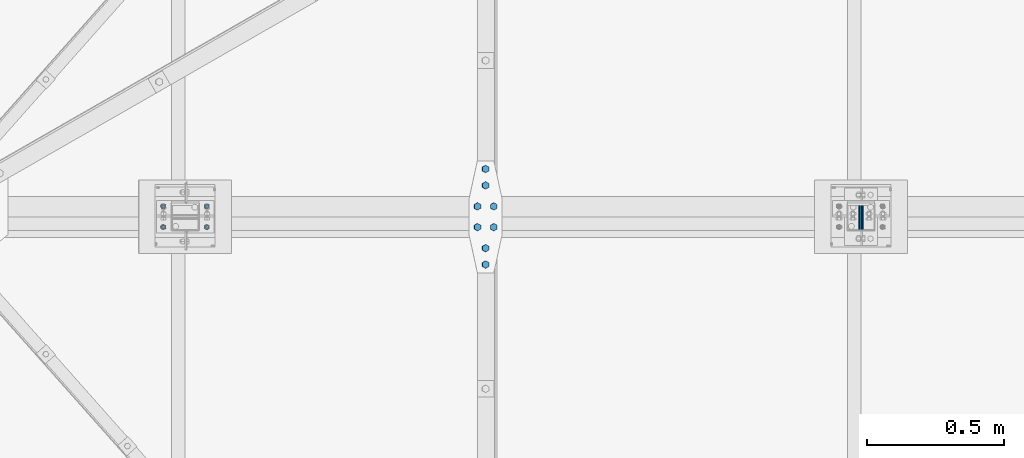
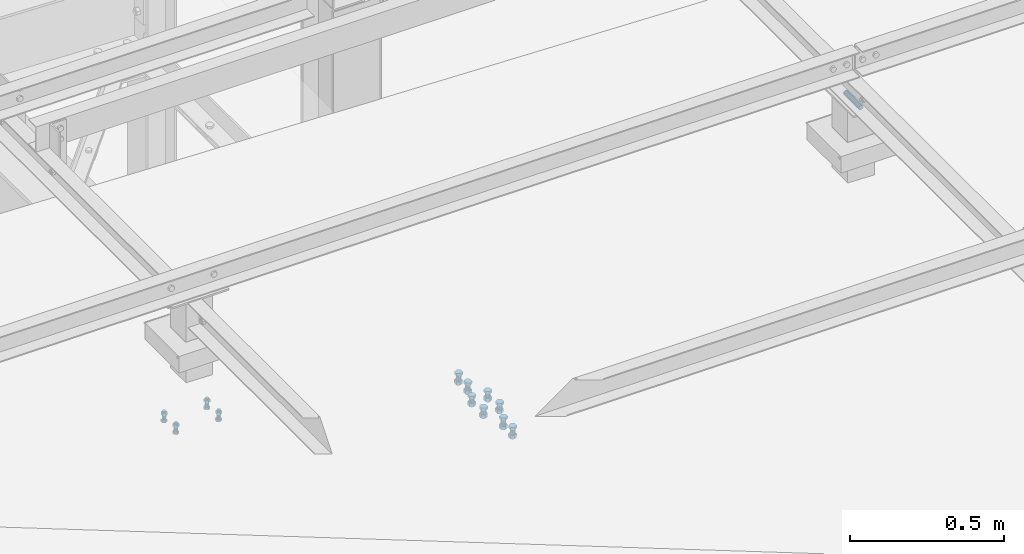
# One storey, part 333 of 3134: 5 mechanical fasteners, 4 elements without a shape of their own.
"""IFC2X3 building model written with IfcOpenShell, lengths in millimetres."""

import ifcopenshell
import ifcopenshell.guid

model = None  # the IFC model being written
_history = None  # IfcOwnerHistory: only IFC2X3 demands one
_inside = {}  # id of a spatial element -> (the spatial element, [elements in it])
_under = {}  # id of a project, library or spatial element -> (it, [spatial elements below it])
_declared = {}  # id of a project -> (the project, [libraries it declares])
_typed = {}  # id of a type object -> (the type object, [elements of that type])
_made_of = {}  # id of a material, layer set ... -> (it, [elements and type objects made of it])


def new_model(schema):
    """Start an empty IFC model of exactly this schema.

    Asked for "IFC4X3", IfcOpenShell would pick the latest addendum, in which some entities
    have other attributes; the version numbers below select the first issue.
    IFC2X3 requires an IfcOwnerHistory on every rooted entity: one is made here for all.
    """
    global model, _history
    if schema == "IFC4X3":
        model = ifcopenshell.file(schema_version=(4, 3, 0, 0))
    else:
        model = ifcopenshell.file(schema=schema)
    _inside.clear()
    _under.clear()
    _declared.clear()
    _typed.clear()
    _made_of.clear()
    _history = None
    if model.schema == "IFC2X3":
        org = make("IfcOrganization", Name="unknown")
        user = make(
            "IfcPersonAndOrganization",
            ThePerson=make("IfcPerson", FamilyName="unknown"),
            TheOrganization=org,
        )
        app = make(
            "IfcApplication",
            ApplicationDeveloper=org,
            Version="unknown",
            ApplicationFullName="unknown",
            ApplicationIdentifier="unknown",
        )
        _history = make(
            "IfcOwnerHistory",
            OwningUser=user,
            OwningApplication=app,
            ChangeAction="ADDED",
            CreationDate=0,
        )
    return model


def make(cls, **values):
    """One entity of the class cls with the attributes given. An attribute that is None is left unset."""
    return model.create_entity(
        cls, **{name: value for name, value in values.items() if value is not None}
    )


def rooted(cls, **values):
    """An entity with a GlobalId (a new one), such as an element, a storey or a relation."""
    return make(cls, GlobalId=ifcopenshell.guid.new(), OwnerHistory=_history, **values)


def si_unit(unit_type, name, prefix=None):
    """IfcSIUnit, for example si_unit("LENGTHUNIT", "METRE", prefix="MILLI")."""
    return make("IfcSIUnit", UnitType=unit_type, Prefix=prefix, Name=name)


def assignment(units):
    """IfcUnitAssignment: the units of a project."""
    return None if units is None else make("IfcUnitAssignment", Units=units)


def point(xyz):
    """IfcCartesianPoint."""
    return None if xyz is None else make("IfcCartesianPoint", Coordinates=xyz)


def direction(xyz):
    """IfcDirection."""
    return None if xyz is None else make("IfcDirection", DirectionRatios=xyz)


def frame(location, z_axis=None, x_axis=None):
    """IfcAxis2Placement3D, a coordinate frame: its origin and axes. An axis left out is left unset."""
    return make(
        "IfcAxis2Placement3D",
        Location=point(location),
        Axis=direction(z_axis),
        RefDirection=direction(x_axis),
    )


def origin_with_axes():
    """The frame at (0, 0, 0) with the z axis (0, 0, 1) and the x axis (1, 0, 0) written out."""
    return frame((0.0, 0.0, 0.0), z_axis=(0.0, 0.0, 1.0), x_axis=(1.0, 0.0, 0.0))


def place(relative_to, where):
    """IfcLocalPlacement: puts the frame where relative to a parent placement (None: the world)."""
    return make(
        "IfcLocalPlacement", PlacementRelTo=relative_to, RelativePlacement=where
    )


def context(
    kind, dimensions, precision=None, world=None, true_north=None, identifier=None
):
    """IfcGeometricRepresentationContext, for example the 3D "Model" context."""
    return make(
        "IfcGeometricRepresentationContext",
        ContextIdentifier=identifier,
        ContextType=kind,
        CoordinateSpaceDimension=dimensions,
        Precision=precision,
        WorldCoordinateSystem=world,
        TrueNorth=true_north,
    )


def subcontext(parent, identifier, kind, view, scale=None):
    """IfcGeometricRepresentationSubContext, for example "Body" below "Model"."""
    return make(
        "IfcGeometricRepresentationSubContext",
        ContextIdentifier=identifier,
        ContextType=kind,
        ParentContext=parent,
        TargetScale=scale,
        TargetView=view,
    )


def project(units=None, contexts=None):
    """IfcProject with its units and contexts."""
    return rooted(
        "IfcProject",
        Name="project",
        RepresentationContexts=contexts,
        UnitsInContext=assignment(units),
    )


def spatial(cls, under=None, at=None, **own):
    """A site, building, storey or space (cls), placed at a placement, below another one or the project."""
    s = rooted(cls, ObjectPlacement=at, **own)
    if under is not None:
        _under.setdefault(under.id(), (under, []))[1].append(s)
    return s


def faces_of(points, faces, orient=None, outer=None):
    """IfcFace entities. A face is a list of loops; a loop is a list of indices into points, from 0.

    orient and outer hold one flag for each loop. By default every Orientation is true, the
    first loop of a face is its IfcFaceOuterBound and the others are IfcFaceBound.
    """
    made = []
    for i, loops in enumerate(faces):
        bounds = []
        for j, loop in enumerate(loops):
            is_outer = j == 0 if outer is None else outer[i][j]
            bounds.append(
                make(
                    "IfcFaceOuterBound" if is_outer else "IfcFaceBound",
                    Bound=make("IfcPolyLoop", Polygon=[points[k] for k in loop]),
                    Orientation=True if orient is None else orient[i][j],
                )
            )
        made.append(make("IfcFace", Bounds=bounds))
    return made


def faceted_brep(points, faces, orient=None, outer=None, voids=None):
    """IfcFacetedBrep: a solid bounded by flat faces; with voids (closed shells), ...WithVoids."""
    shared = [point(p) for p in points]
    hull = make("IfcClosedShell", CfsFaces=faces_of(shared, faces, orient, outer))
    if voids is None:
        return make("IfcFacetedBrep", Outer=hull)
    return make(
        "IfcFacetedBrepWithVoids",
        Outer=hull,
        Voids=[
            make(cls, CfsFaces=faces_of(shared, fs, o, b)) for cls, fs, o, b in voids
        ],
    )


def shape(context_of_items, identifier, shape_type, items):
    """IfcShapeRepresentation: the items that make up one representation, for example the "Body"."""
    return make(
        "IfcShapeRepresentation",
        ContextOfItems=context_of_items,
        RepresentationIdentifier=identifier,
        RepresentationType=shape_type,
        Items=items,
    )


def source(mapping_origin, context_of_items, identifier, shape_type, items):
    """IfcRepresentationMap: a shape defined once, which mapped items show again and again."""
    return make(
        "IfcRepresentationMap",
        MappingOrigin=mapping_origin,
        MappedRepresentation=shape(context_of_items, identifier, shape_type, items),
    )


def transform(
    local_origin,
    x_axis=None,
    y_axis=None,
    z_axis=None,
    scale=None,
    scale2=None,
    scale3=None,
    uniform=True,
):
    """IfcCartesianTransformationOperator3D, or its non-uniform kind. x_axis, y_axis, z_axis: its Axis1, 2, 3."""
    if uniform:
        return make(
            "IfcCartesianTransformationOperator3D",
            Axis1=direction(x_axis),
            Axis2=direction(y_axis),
            LocalOrigin=point(local_origin),
            Scale=scale,
            Axis3=direction(z_axis),
        )
    return make(
        "IfcCartesianTransformationOperator3DnonUniform",
        Axis1=direction(x_axis),
        Axis2=direction(y_axis),
        LocalOrigin=point(local_origin),
        Scale=scale,
        Axis3=direction(z_axis),
        Scale2=scale2,
        Scale3=scale3,
    )


def mapped(mapping_source, mapping_target):
    """IfcMappedItem: shows the shape of a source again, moved by a transform."""
    return make(
        "IfcMappedItem", MappingSource=mapping_source, MappingTarget=mapping_target
    )


def material(Name=None, Category=None):
    """IfcMaterial."""
    return make("IfcMaterial", Name=Name, Category=Category)


def made_of(thing, what):
    """Note that an element or type object is made of a material, layer set ...; save() writes the relation."""
    if what is not None:
        _made_of.setdefault(what.id(), (what, []))[1].append(thing)
    return thing


def type_object(cls, material=None, **own):
    """A type object (cls), such as IfcWallType, which elements share."""
    return made_of(rooted(cls, **own), material)


def element(
    cls,
    number,
    at=None,
    inside=None,
    cuts=None,
    type_object=None,
    material=None,
    context=None,
    identifier="Body",
    shape_type=None,
    held_by="IfcProductDefinitionShape",
    body=None,
    shapes=None,
    **own,
):
    """One element of the class cls, such as IfcWall. Its Tag is "e" and its number.

    at: its placement. inside: the storey or other place that contains it. cuts: it is an
    opening in that element (IfcRelVoidsElement). A single representation is given by context,
    identifier, shape_type and body (its items); several are given by shapes. held_by: the class
    of the entity that holds the representations. save() writes the other relations.
    """
    e = rooted(cls, Tag="e%d" % number, ObjectPlacement=at, **own)
    if body is not None:
        shapes = [shape(context, identifier, shape_type, body)]
    if shapes is not None:
        e.Representation = make(held_by, Representations=shapes)
    if inside is not None:
        _inside.setdefault(inside.id(), (inside, []))[1].append(e)
    if cuts is not None:
        rooted(
            "IfcRelVoidsElement", RelatingBuildingElement=cuts, RelatedOpeningElement=e
        )
    if type_object is not None:
        _typed.setdefault(type_object.id(), (type_object, []))[1].append(e)
    return made_of(e, material)


def aggregate(whole, parts):
    """IfcRelAggregates: a whole, such as a stair, and the parts it consists of."""
    return rooted("IfcRelAggregates", RelatingObject=whole, RelatedObjects=parts)


def save(model, path):
    """Write the relations noted so far, then the file.

    IfcRelAggregates (storeys below a building ...), IfcRelContainedInSpatialStructure (elements
    in a storey), IfcRelDefinesByType, IfcRelAssociatesMaterial and IfcRelDeclares: one each for
    every whole, place, type object, material and project.
    """
    for whole, parts in _under.values():
        aggregate(whole, parts)
    for where, things in _inside.values():
        rooted(
            "IfcRelContainedInSpatialStructure",
            RelatedElements=things,
            RelatingStructure=where,
        )
    for kind, things in _typed.values():
        rooted("IfcRelDefinesByType", RelatedObjects=things, RelatingType=kind)
    for what, things in _made_of.values():
        rooted("IfcRelAssociatesMaterial", RelatedObjects=things, RelatingMaterial=what)
    for by, libraries in _declared.values():
        rooted("IfcRelDeclares", RelatingContext=by, RelatedDefinitions=libraries)
    model.write(path)


model = new_model("IFC2X3")

# Units and contexts
model_context = context("Model", 3, precision=1e-05, world=origin_with_axes())
body_context = subcontext(model_context, "Body", "Model", "MODEL_VIEW")
ifc_project = project(units=[si_unit("LENGTHUNIT", "METRE", prefix="MILLI"), si_unit("AREAUNIT", "SQUARE_METRE"), si_unit("VOLUMEUNIT", "CUBIC_METRE"), si_unit("MASSUNIT", "GRAM", prefix="KILO"), si_unit("TIMEUNIT", "SECOND"), si_unit("PLANEANGLEUNIT", "RADIAN"), si_unit("SOLIDANGLEUNIT", "STERADIAN"), si_unit("THERMODYNAMICTEMPERATUREUNIT", "DEGREE_CELSIUS"), si_unit("LUMINOUSINTENSITYUNIT", "LUMEN")], contexts=[model_context])

# Site, building, storey
site_placement = place(None, origin_with_axes())
site = spatial("IfcSite", under=ifc_project, at=site_placement, CompositionType="ELEMENT")
building_placement = place(site_placement, origin_with_axes())
building = spatial("IfcBuilding", under=site, at=building_placement, Name="Undefined", CompositionType="ELEMENT")
storey_placement = place(building_placement, origin_with_axes())
storey = spatial("IfcBuildingStorey", under=building, at=storey_placement, Name="Undefined", CompositionType="ELEMENT", Elevation=0.0)

# Assembly, mechanical fastener
assembly_1_placement = place(storey_placement, origin_with_axes())
assembly_1 = element("IfcElementAssembly", 1, at=assembly_1_placement, inside=storey, Name="300", AssemblyPlace="NOTDEFINED", PredefinedType="RIGID_FRAME")
ifc_material = material(Name="8.8")
mechanical_fastener_type = type_object("IfcMechanicalFastenerType", Name="Bolt assembly")
shared_shape_1 = source(origin_with_axes(), body_context, "Body", "Brep", [
    faceted_brep([(13.856406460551, -23.1999997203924, 0.0), (6.92820323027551, -23.1999997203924, 12.0), (-6.92820323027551, -23.1999997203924, 12.0), (-13.856406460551, -23.1999997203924, 1.69692038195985e-15), (-6.92820323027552, -23.1999997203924, -12.0), (6.9282032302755, -23.1999997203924, -12.0), (6.9282032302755, -13.1999997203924, -12.0), (-6.92820323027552, -13.1999997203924, -12.0), (-13.856406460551, -13.1999997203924, 1.69692038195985e-15), (-6.92820323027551, -13.1999997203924, 12.0), (6.92820323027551, -13.1999997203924, 12.0), (13.856406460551, -13.1999997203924, 0.0), (8.0, -13.1999997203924, 0.0), (6.92820323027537, -13.1999997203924, 4.00000000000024), (3.99999999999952, -13.1999997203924, 6.92820323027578), (-8.29068785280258e-13, -13.1999997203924, 8.0), (-4.00000000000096, -13.1999997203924, 6.92820323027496), (-6.9282032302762, -13.1999997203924, 3.99999999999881), (-8.0, -13.1999997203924, -1.65813757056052e-12), (-6.92820323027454, -13.1999997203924, -4.00000000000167), (-3.99999999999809, -13.1999997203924, -6.92820323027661), (2.47832457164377e-12, -13.1999997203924, -8.0), (4.00000000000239, -13.1999997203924, -6.92820323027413), (6.92820323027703, -13.1999997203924, -3.99999999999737), (6.92820323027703, 21.8000002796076, -3.99999999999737), (4.00000000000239, 21.8000002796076, -6.92820323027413), (2.47832457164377e-12, 21.8000002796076, -8.0), (-3.99999999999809, 21.8000002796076, -6.92820323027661), (-6.92820323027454, 21.8000002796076, -4.00000000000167), (-8.0, 21.8000002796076, -1.65813757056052e-12), (-6.9282032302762, 21.8000002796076, 3.99999999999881), (-4.00000000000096, 21.8000002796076, 6.92820323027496), (-8.29068785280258e-13, 21.8000002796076, 8.0), (3.99999999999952, 21.8000002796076, 6.92820323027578), (6.92820323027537, 21.8000002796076, 4.00000000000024), (8.0, 21.8000002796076, 0.0), (13.856406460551, 3.99999999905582, 0.0), (6.92820323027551, 3.99999999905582, 12.0), (-6.92820323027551, 3.99999999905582, 12.0), (-13.856406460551, 3.99999999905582, 1.69692038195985e-15), (-6.92820323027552, 3.99999999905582, -12.0), (6.9282032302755, 3.99999999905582, -12.0), (6.9282032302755, 16.9999999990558, -12.0), (-6.92820323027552, 16.9999999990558, -12.0), (-13.856406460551, 16.9999999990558, 1.69692038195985e-15), (-6.92820323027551, 16.9999999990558, 12.0), (6.92820323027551, 16.9999999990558, 12.0), (13.856406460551, 16.9999999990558, 0.0)], [[[0, 1, 2, 3, 4, 5]], [[6, 7, 8, 9, 10, 11]], [[0, 11, 10, 1]], [[1, 10, 9, 2]], [[2, 9, 8, 3]], [[3, 8, 7, 4]], [[4, 7, 6, 5]], [[5, 6, 11, 0]], [[12, 13, 14, 15, 16, 17, 18, 19, 20, 21, 22, 23]], [[24, 25, 26, 27, 28, 29, 30, 31, 32, 33, 34, 35]], [[12, 35, 34, 13]], [[13, 34, 33, 14]], [[14, 33, 32, 15]], [[15, 32, 31, 16]], [[16, 31, 30, 17]], [[17, 30, 29, 18]], [[18, 29, 28, 19]], [[19, 28, 27, 20]], [[20, 27, 26, 21]], [[21, 26, 25, 22]], [[22, 25, 24, 23]], [[23, 24, 35, 12]], [[36, 37, 38, 39, 40, 41]], [[42, 43, 44, 45, 46, 47]], [[36, 47, 46, 37]], [[37, 46, 45, 38]], [[38, 45, 44, 39]], [[39, 44, 43, 40]], [[40, 43, 42, 41]], [[41, 42, 47, 36]]]),
    faceted_brep([(9.0, -4.10000000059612, 0.0), (7.79422863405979, -4.10000000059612, 4.50000000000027), (4.49999999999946, -4.10000000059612, 7.79422863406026), (-9.3270238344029e-13, -4.10000000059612, 9.0), (-4.50000000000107, -4.10000000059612, 7.79422863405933), (-7.79422863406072, -4.10000000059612, 4.49999999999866), (-9.0, -4.10000000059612, -1.86540476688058e-12), (-7.79422863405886, -4.10000000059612, -4.50000000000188), (-4.49999999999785, -4.10000000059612, -7.79422863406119), (2.78811514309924e-12, -4.10000000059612, -9.0), (4.50000000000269, -4.10000000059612, -7.7942286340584), (7.79422863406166, -4.10000000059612, -4.49999999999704), (7.79422863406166, 4.00000375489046, -4.49999999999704), (4.50000000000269, 4.00000375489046, -7.7942286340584), (2.78811514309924e-12, 4.00000375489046, -9.0), (-4.49999999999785, 4.00000375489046, -7.79422863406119), (-7.79422863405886, 4.00000375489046, -4.50000000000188), (-9.0, 4.00000375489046, -1.86540476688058e-12), (-7.79422863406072, 4.00000375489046, 4.49999999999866), (-4.50000000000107, 4.00000375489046, 7.79422863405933), (-9.3270238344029e-13, 4.00000375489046, 9.0), (4.49999999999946, 4.00000375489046, 7.79422863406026), (7.79422863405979, 4.00000375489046, 4.50000000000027), (9.0, 4.00000375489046, 0.0), (9.0, -13.0999997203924, 0.0), (7.79422863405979, -13.0999997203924, 4.50000000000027), (4.49999999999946, -13.0999997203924, 7.79422863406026), (-9.3270238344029e-13, -13.0999997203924, 9.0), (-4.50000000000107, -13.0999997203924, 7.79422863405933), (-7.79422863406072, -13.0999997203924, 4.49999999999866), (-9.0, -13.0999997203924, -1.86540476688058e-12), (-7.79422863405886, -13.0999997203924, -4.50000000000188), (-4.49999999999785, -13.0999997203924, -7.79422863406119), (2.78811514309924e-12, -13.0999997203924, -9.0), (4.50000000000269, -13.0999997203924, -7.7942286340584), (7.79422863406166, -13.0999997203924, -4.49999999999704), (7.79422863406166, -3.9, -4.49999999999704), (4.50000000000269, -3.9, -7.7942286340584), (2.78811514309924e-12, -3.9, -9.0), (-4.49999999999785, -3.9, -7.79422863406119), (-7.79422863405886, -3.9, -4.50000000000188), (-9.0, -3.9, -1.86540476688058e-12), (-7.79422863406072, -3.9, 4.49999999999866), (-4.50000000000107, -3.9, 7.79422863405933), (-9.3270238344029e-13, -3.9, 9.0), (4.49999999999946, -3.9, 7.79422863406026), (7.79422863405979, -3.9, 4.50000000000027), (9.0, -3.9, 0.0)], [[[0, 1, 2, 3, 4, 5, 6, 7, 8, 9, 10, 11]], [[12, 13, 14, 15, 16, 17, 18, 19, 20, 21, 22, 23]], [[0, 23, 22, 1]], [[1, 22, 21, 2]], [[2, 21, 20, 3]], [[3, 20, 19, 4]], [[4, 19, 18, 5]], [[5, 18, 17, 6]], [[6, 17, 16, 7]], [[7, 16, 15, 8]], [[8, 15, 14, 9]], [[9, 14, 13, 10]], [[10, 13, 12, 11]], [[11, 12, 23, 0]], [[24, 25, 26, 27, 28, 29, 30, 31, 32, 33, 34, 35]], [[36, 37, 38, 39, 40, 41, 42, 43, 44, 45, 46, 47]], [[24, 47, 46, 25]], [[25, 46, 45, 26]], [[26, 45, 44, 27]], [[27, 44, 43, 28]], [[28, 43, 42, 29]], [[29, 42, 41, 30]], [[30, 41, 40, 31]], [[31, 40, 39, 32]], [[32, 39, 38, 33]], [[33, 38, 37, 34]], [[34, 37, 36, 35]], [[35, 36, 47, 24]]]),
])
mechanical_fastener_1_placement = place(assembly_1_placement, frame((71700.0552172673, 12331.9999999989, 5010.20374992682), z_axis=(-0.999519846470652, 0.0, 0.0309851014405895), x_axis=(0.0, 1.0, 0.0)))
mechanical_fastener_1 = element("IfcMechanicalFastener", 2, at=mechanical_fastener_1_placement, type_object=mechanical_fastener_type, material=ifc_material, Name="Bolt assembly", NominalDiameter=16.0, NominalLength=35.0, context=body_context, shape_type="MappedRepresentation", body=[
    mapped(shared_shape_1, transform((0.0, 4.54747350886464e-13, -30.0000000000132))),
    mapped(shared_shape_1, transform((76.0, -2.00088834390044e-10, -29.9999999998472))),
    mapped(shared_shape_1, transform((0.0, 4.54747350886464e-13, 30.0000000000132))),
    mapped(shared_shape_1, transform((76.0, 1.98269844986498e-10, 29.9999999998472))),
])

assembly_2_placement = place(storey_placement, origin_with_axes())
assembly_2 = element("IfcElementAssembly", 3, at=assembly_2_placement, inside=storey, AssemblyPlace="NOTDEFINED", PredefinedType="RIGID_FRAME")
shared_shape_2 = source(origin_with_axes(), body_context, "Body", "Brep", [
    faceted_brep([(9.0, -50.0, 0.0), (7.79422863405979, -50.0, 4.50000000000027), (4.49999999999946, -50.0, 7.79422863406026), (-9.3270238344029e-13, -50.0, 9.0), (-4.50000000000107, -50.0, 7.79422863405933), (-7.79422863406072, -50.0, 4.49999999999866), (-9.0, -50.0, -1.86540476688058e-12), (-7.79422863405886, -50.0, -4.50000000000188), (-4.49999999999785, -50.0, -7.79422863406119), (2.78811514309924e-12, -50.0, -9.0), (4.50000000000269, -50.0, -7.7942286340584), (7.79422863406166, -50.0, -4.49999999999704), (7.79422863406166, 50.1, -4.49999999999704), (4.50000000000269, 50.1, -7.7942286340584), (2.78811514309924e-12, 50.1, -9.0), (-4.49999999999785, 50.1, -7.79422863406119), (-7.79422863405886, 50.1, -4.50000000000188), (-9.0, 50.1, -1.86540476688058e-12), (-7.79422863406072, 50.1, 4.49999999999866), (-4.50000000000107, 50.1, 7.79422863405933), (-9.3270238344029e-13, 50.1, 9.0), (4.49999999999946, 50.1, 7.79422863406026), (7.79422863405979, 50.1, 4.50000000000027), (9.0, 50.1, 0.0)], [[[0, 1, 2, 3, 4, 5, 6, 7, 8, 9, 10, 11]], [[12, 13, 14, 15, 16, 17, 18, 19, 20, 21, 22, 23]], [[0, 23, 22, 1]], [[1, 22, 21, 2]], [[2, 21, 20, 3]], [[3, 20, 19, 4]], [[4, 19, 18, 5]], [[5, 18, 17, 6]], [[6, 17, 16, 7]], [[7, 16, 15, 8]], [[8, 15, 14, 9]], [[9, 14, 13, 10]], [[10, 13, 12, 11]], [[11, 12, 23, 0]]]),
])
mechanical_fastener_2_placement = place(assembly_2_placement, frame((73075.0, 12370.0, 5730.0), z_axis=(-1.0, 0.0, 0.0), x_axis=(0.0, 0.0, 1.0)))
mechanical_fastener_2 = element("IfcMechanicalFastener", 4, at=mechanical_fastener_2_placement, type_object=mechanical_fastener_type, material=ifc_material, Name="Bolt assembly", NominalDiameter=16.0, NominalLength=100.0, context=body_context, shape_type="MappedRepresentation", body=[
    mapped(shared_shape_2, transform((0.0, 0.0, 0.0))),
])
aggregate(assembly_2, [mechanical_fastener_2])

# Mechanical fastener
shared_shape_3 = source(origin_with_axes(), body_context, "Body", "Brep", [
    faceted_brep([(10.9696551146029, -10.1955642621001, 0.0), (5.48482755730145, -10.1955642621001, 9.5), (-5.48482755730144, -10.1955642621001, 9.5), (-10.9696551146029, -10.1955642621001, 1.34339530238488e-15), (-5.48482755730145, -10.1955642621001, -9.5), (5.48482755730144, -10.1955642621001, -9.50000000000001), (5.48482755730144, -2.19556426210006, -9.50000000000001), (-5.48482755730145, -2.19556426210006, -9.5), (-10.9696551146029, -2.19556426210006, 1.34339530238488e-15), (-5.48482755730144, -2.19556426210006, 9.5), (5.48482755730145, -2.19556426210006, 9.5), (10.9696551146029, -2.19556426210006, 0.0), (6.0, -2.19556426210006, 0.0), (5.19615242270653, -2.19556426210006, 3.00000000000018), (2.99999999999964, -2.19556426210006, 5.19615242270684), (-6.21801588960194e-13, -2.19556426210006, 6.0), (-3.00000000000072, -2.19556426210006, 5.19615242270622), (-5.19615242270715, -2.19556426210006, 2.9999999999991), (-6.0, -2.19556426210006, -1.24360317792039e-12), (-5.19615242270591, -2.19556426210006, -3.00000000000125), (-2.99999999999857, -2.19556426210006, -5.19615242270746), (1.85874342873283e-12, -2.19556426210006, -6.0), (3.00000000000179, -2.19556426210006, -5.1961524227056), (5.19615242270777, -2.19556426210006, -2.99999999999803), (5.19615242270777, 32.8044357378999, -2.99999999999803), (3.00000000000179, 32.8044357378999, -5.1961524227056), (1.85874342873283e-12, 32.8044357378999, -6.0), (-2.99999999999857, 32.8044357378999, -5.19615242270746), (-5.19615242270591, 32.8044357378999, -3.00000000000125), (-6.0, 32.8044357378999, -1.24360317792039e-12), (-5.19615242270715, 32.8044357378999, 2.9999999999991), (-3.00000000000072, 32.8044357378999, 5.19615242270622), (-6.21801588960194e-13, 32.8044357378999, 6.0), (2.99999999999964, 32.8044357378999, 5.19615242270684), (5.19615242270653, 32.8044357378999, 3.00000000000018), (6.0, 32.8044357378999, 0.0), (10.9696551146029, 17.0008987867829, 0.0), (5.48482755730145, 17.0008987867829, 9.5), (-5.48482755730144, 17.0008987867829, 9.5), (-10.9696551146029, 17.0008987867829, 1.34339530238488e-15), (-5.48482755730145, 17.0008987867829, -9.5), (5.48482755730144, 17.0008987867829, -9.50000000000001), (5.48482755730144, 27.0008987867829, -9.50000000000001), (-5.48482755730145, 27.0008987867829, -9.5), (-10.9696551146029, 27.0008987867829, 1.34339530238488e-15), (-5.48482755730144, 27.0008987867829, 9.5), (5.48482755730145, 27.0008987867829, 9.5), (10.9696551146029, 27.0008987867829, 0.0)], [[[0, 1, 2, 3, 4, 5]], [[6, 7, 8, 9, 10, 11]], [[0, 11, 10, 1]], [[1, 10, 9, 2]], [[2, 9, 8, 3]], [[3, 8, 7, 4]], [[4, 7, 6, 5]], [[5, 6, 11, 0]], [[12, 13, 14, 15, 16, 17, 18, 19, 20, 21, 22, 23]], [[24, 25, 26, 27, 28, 29, 30, 31, 32, 33, 34, 35]], [[12, 35, 34, 13]], [[13, 34, 33, 14]], [[14, 33, 32, 15]], [[15, 32, 31, 16]], [[16, 31, 30, 17]], [[17, 30, 29, 18]], [[18, 29, 28, 19]], [[19, 28, 27, 20]], [[20, 27, 26, 21]], [[21, 26, 25, 22]], [[22, 25, 24, 23]], [[23, 24, 35, 12]], [[36, 37, 38, 39, 40, 41]], [[42, 43, 44, 45, 46, 47]], [[36, 47, 46, 37]], [[37, 46, 45, 38]], [[38, 45, 44, 39]], [[39, 44, 43, 40]], [[40, 43, 42, 41]], [[41, 42, 47, 36]]]),
    faceted_brep([(7.0, 8.90089878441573, 0.0), (6.06217782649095, 8.90089878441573, 3.50000000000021), (3.49999999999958, 8.90089878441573, 6.06217782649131), (-7.25435187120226e-13, 8.90089878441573, 7.0), (-3.50000000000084, 8.90089878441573, 6.06217782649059), (-6.06217782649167, 8.90089878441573, 3.49999999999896), (-7.0, 8.90089878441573, -1.45087037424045e-12), (-6.06217782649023, 8.90089878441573, -3.50000000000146), (-3.49999999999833, 8.90089878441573, -6.06217782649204), (2.1685340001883e-12, 8.90089878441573, -7.0), (3.50000000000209, 8.90089878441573, -6.06217782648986), (6.0621778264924, 8.90089878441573, -3.4999999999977), (6.0621778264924, 17.0008987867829, -3.4999999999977), (3.50000000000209, 17.0008987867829, -6.06217782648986), (2.1685340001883e-12, 17.0008987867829, -7.0), (-3.49999999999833, 17.0008987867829, -6.06217782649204), (-6.06217782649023, 17.0008987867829, -3.50000000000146), (-7.0, 17.0008987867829, -1.45087037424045e-12), (-6.06217782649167, 17.0008987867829, 3.49999999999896), (-3.50000000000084, 17.0008987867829, 6.06217782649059), (-7.25435187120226e-13, 17.0008987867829, 7.0), (3.49999999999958, 17.0008987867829, 6.06217782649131), (6.06217782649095, 17.0008987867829, 3.50000000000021), (7.0, 17.0008987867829, 0.0), (7.0, -2.09556426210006, 0.0), (6.06217782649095, -2.09556426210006, 3.50000000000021), (3.49999999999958, -2.09556426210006, 6.06217782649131), (-7.25435187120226e-13, -2.09556426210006, 7.0), (-3.50000000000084, -2.09556426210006, 6.06217782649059), (-6.06217782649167, -2.09556426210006, 3.49999999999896), (-7.0, -2.09556426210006, -1.45087037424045e-12), (-6.06217782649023, -2.09556426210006, -3.50000000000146), (-3.49999999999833, -2.09556426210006, -6.06217782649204), (2.1685340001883e-12, -2.09556426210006, -7.0), (3.50000000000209, -2.09556426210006, -6.06217782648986), (6.0621778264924, -2.09556426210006, -3.4999999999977), (6.0621778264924, 7.10443554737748, -3.4999999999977), (3.50000000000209, 7.10443554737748, -6.06217782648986), (2.1685340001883e-12, 7.10443554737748, -7.0), (-3.49999999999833, 7.10443554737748, -6.06217782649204), (-6.06217782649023, 7.10443554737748, -3.50000000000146), (-7.0, 7.10443554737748, -1.45087037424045e-12), (-6.06217782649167, 7.10443554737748, 3.49999999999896), (-3.50000000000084, 7.10443554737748, 6.06217782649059), (-7.25435187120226e-13, 7.10443554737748, 7.0), (3.49999999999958, 7.10443554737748, 6.06217782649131), (6.06217782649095, 7.10443554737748, 3.50000000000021), (7.0, 7.10443554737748, 0.0)], [[[0, 1, 2, 3, 4, 5, 6, 7, 8, 9, 10, 11]], [[12, 13, 14, 15, 16, 17, 18, 19, 20, 21, 22, 23]], [[0, 23, 22, 1]], [[1, 22, 21, 2]], [[2, 21, 20, 3]], [[3, 20, 19, 4]], [[4, 19, 18, 5]], [[5, 18, 17, 6]], [[6, 17, 16, 7]], [[7, 16, 15, 8]], [[8, 15, 14, 9]], [[9, 14, 13, 10]], [[10, 13, 12, 11]], [[11, 12, 23, 0]], [[24, 25, 26, 27, 28, 29, 30, 31, 32, 33, 34, 35]], [[36, 37, 38, 39, 40, 41, 42, 43, 44, 45, 46, 47]], [[24, 47, 46, 25]], [[25, 46, 45, 26]], [[26, 45, 44, 27]], [[27, 44, 43, 28]], [[28, 43, 42, 29]], [[29, 42, 41, 30]], [[30, 41, 40, 31]], [[31, 40, 39, 32]], [[32, 39, 38, 33]], [[33, 38, 37, 34]], [[34, 37, 36, 35]], [[35, 36, 47, 24]]]),
])
mechanical_fastener_3_placement = place(assembly_1_placement, frame((70599.5351187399, 12408.0, 5338.4572055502), z_axis=(-0.99951962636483, 0.0, 0.0309922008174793), x_axis=(0.0, -1.0, 0.0)))
mechanical_fastener_3 = element("IfcMechanicalFastener", 5, at=mechanical_fastener_3_placement, type_object=mechanical_fastener_type, material=ifc_material, Name="Bolt assembly", NominalDiameter=12.0, NominalLength=35.0, context=body_context, shape_type="MappedRepresentation", body=[
    mapped(shared_shape_3, transform((0.0, -5.32963895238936e-10, -79.9999999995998))),
    mapped(shared_shape_3, transform((76.0, -5.32963895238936e-10, -79.9999999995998))),
    mapped(shared_shape_3, transform((0.0, 5.3114490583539e-10, 79.9999999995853))),
    mapped(shared_shape_3, transform((76.0, 5.3114490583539e-10, 79.9999999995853))),
])

aggregate(assembly_1, [mechanical_fastener_3, mechanical_fastener_1])

# Assembly, mechanical fastener
assembly_3_placement = place(storey_placement, origin_with_axes())
assembly_3 = element("IfcElementAssembly", 6, at=assembly_3_placement, inside=storey, AssemblyPlace="NOTDEFINED", PredefinedType="RIGID_FRAME")
shared_shape_4 = source(origin_with_axes(), body_context, "Body", "Brep", [
    faceted_brep([(13.856406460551, -21.0000017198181, 0.0), (6.92820323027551, -21.0000017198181, 12.0), (-6.92820323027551, -21.0000017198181, 12.0), (-13.856406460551, -21.0000017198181, 1.69692038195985e-15), (-6.92820323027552, -21.0000017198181, -12.0), (6.9282032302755, -21.0000017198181, -12.0), (6.9282032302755, -11.0000017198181, -12.0), (-6.92820323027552, -11.0000017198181, -12.0), (-13.856406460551, -11.0000017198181, 1.69692038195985e-15), (-6.92820323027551, -11.0000017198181, 12.0), (6.92820323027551, -11.0000017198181, 12.0), (13.856406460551, -11.0000017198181, 0.0), (8.0, -11.0000017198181, 0.0), (6.92820323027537, -11.0000017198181, 4.00000000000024), (3.99999999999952, -11.0000017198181, 6.92820323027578), (-8.29068785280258e-13, -11.0000017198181, 8.0), (-4.00000000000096, -11.0000017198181, 6.92820323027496), (-6.9282032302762, -11.0000017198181, 3.99999999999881), (-8.0, -11.0000017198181, -1.65813757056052e-12), (-6.92820323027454, -11.0000017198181, -4.00000000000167), (-3.99999999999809, -11.0000017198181, -6.92820323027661), (2.47832457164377e-12, -11.0000017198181, -8.0), (4.00000000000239, -11.0000017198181, -6.92820323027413), (6.92820323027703, -11.0000017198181, -3.99999999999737), (6.92820323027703, 29.0, -3.99999999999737), (4.00000000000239, 29.0, -6.92820323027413), (2.47832457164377e-12, 29.0, -8.0), (-3.99999999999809, 29.0, -6.92820323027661), (-6.92820323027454, 29.0, -4.00000000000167), (-8.0, 29.0, -1.65813757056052e-12), (-6.9282032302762, 29.0, 3.99999999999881), (-4.00000000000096, 29.0, 6.92820323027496), (-8.29068785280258e-13, 29.0, 8.0), (3.99999999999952, 29.0, 6.92820323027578), (6.92820323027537, 29.0, 4.00000000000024), (8.0, 29.0, 0.0), (13.856406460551, 10.9979999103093, 0.0), (6.92820323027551, 10.9979999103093, 12.0), (-6.92820323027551, 10.9979999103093, 12.0), (-13.856406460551, 10.9979999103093, 1.69692038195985e-15), (-6.92820323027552, 10.9979999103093, -12.0), (6.9282032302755, 10.9979999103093, -12.0), (6.9282032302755, 23.9979999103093, -12.0), (-6.92820323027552, 23.9979999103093, -12.0), (-13.856406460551, 23.9979999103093, 1.69692038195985e-15), (-6.92820323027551, 23.9979999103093, 12.0), (6.92820323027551, 23.9979999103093, 12.0), (13.856406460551, 23.9979999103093, 0.0)], [[[0, 1, 2, 3, 4, 5]], [[6, 7, 8, 9, 10, 11]], [[0, 11, 10, 1]], [[1, 10, 9, 2]], [[2, 9, 8, 3]], [[3, 8, 7, 4]], [[4, 7, 6, 5]], [[5, 6, 11, 0]], [[12, 13, 14, 15, 16, 17, 18, 19, 20, 21, 22, 23]], [[24, 25, 26, 27, 28, 29, 30, 31, 32, 33, 34, 35]], [[12, 35, 34, 13]], [[13, 34, 33, 14]], [[14, 33, 32, 15]], [[15, 32, 31, 16]], [[16, 31, 30, 17]], [[17, 30, 29, 18]], [[18, 29, 28, 19]], [[19, 28, 27, 20]], [[20, 27, 26, 21]], [[21, 26, 25, 22]], [[22, 25, 24, 23]], [[23, 24, 35, 12]], [[36, 37, 38, 39, 40, 41]], [[42, 43, 44, 45, 46, 47]], [[36, 47, 46, 37]], [[37, 46, 45, 38]], [[38, 45, 44, 39]], [[39, 44, 43, 40]], [[40, 43, 42, 41]], [[41, 42, 47, 36]]]),
    faceted_brep([(9.0, -10.9000017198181, 0.0), (7.79422863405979, -10.9000017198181, 4.50000000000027), (4.49999999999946, -10.9000017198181, 7.79422863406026), (-9.3270238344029e-13, -10.9000017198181, 9.0), (-4.50000000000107, -10.9000017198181, 7.79422863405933), (-7.79422863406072, -10.9000017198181, 4.49999999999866), (-9.0, -10.9000017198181, -1.86540476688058e-12), (-7.79422863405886, -10.9000017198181, -4.50000000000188), (-4.49999999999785, -10.9000017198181, -7.79422863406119), (2.78811514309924e-12, -10.9000017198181, -9.0), (4.50000000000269, -10.9000017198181, -7.7942286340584), (7.79422863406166, -10.9000017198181, -4.49999999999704), (7.79422863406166, -3.9, -4.49999999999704), (4.50000000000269, -3.9, -7.7942286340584), (2.78811514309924e-12, -3.9, -9.0), (-4.49999999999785, -3.9, -7.79422863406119), (-7.79422863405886, -3.9, -4.50000000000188), (-9.0, -3.9, -1.86540476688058e-12), (-7.79422863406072, -3.9, 4.49999999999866), (-4.50000000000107, -3.9, 7.79422863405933), (-9.3270238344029e-13, -3.9, 9.0), (4.49999999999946, -3.9, 7.79422863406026), (7.79422863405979, -3.9, 4.50000000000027), (9.0, -3.9, 0.0), (9.0, 3.89799991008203, 0.0), (7.79422863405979, 3.89799991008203, 4.50000000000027), (4.49999999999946, 3.89799991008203, 7.79422863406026), (-9.3270238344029e-13, 3.89799991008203, 9.0), (-4.50000000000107, 3.89799991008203, 7.79422863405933), (-7.79422863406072, 3.89799991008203, 4.49999999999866), (-9.0, 3.89799991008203, -1.86540476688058e-12), (-7.79422863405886, 3.89799991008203, -4.50000000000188), (-4.49999999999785, 3.89799991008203, -7.79422863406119), (2.78811514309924e-12, 3.89799991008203, -9.0), (4.50000000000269, 3.89799991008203, -7.7942286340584), (7.79422863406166, 3.89799991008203, -4.49999999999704), (7.79422863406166, 10.9979999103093, -4.49999999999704), (4.50000000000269, 10.9979999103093, -7.7942286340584), (2.78811514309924e-12, 10.9979999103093, -9.0), (-4.49999999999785, 10.9979999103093, -7.79422863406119), (-7.79422863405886, 10.9979999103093, -4.50000000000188), (-9.0, 10.9979999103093, -1.86540476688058e-12), (-7.79422863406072, 10.9979999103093, 4.49999999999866), (-4.50000000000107, 10.9979999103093, 7.79422863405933), (-9.3270238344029e-13, 10.9979999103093, 9.0), (4.49999999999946, 10.9979999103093, 7.79422863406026), (7.79422863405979, 10.9979999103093, 4.50000000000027), (9.0, 10.9979999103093, 0.0), (9.0, -3.99999624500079, 0.0), (7.79422863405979, -3.99999624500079, 4.50000000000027), (4.49999999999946, -3.99999624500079, 7.79422863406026), (-9.3270238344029e-13, -3.99999624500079, 9.0), (-4.50000000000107, -3.99999624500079, 7.79422863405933), (-7.79422863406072, -3.99999624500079, 4.49999999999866), (-9.0, -3.99999624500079, -1.86540476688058e-12), (-7.79422863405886, -3.99999624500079, -4.50000000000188), (-4.49999999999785, -3.99999624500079, -7.79422863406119), (2.78811514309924e-12, -3.99999624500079, -9.0), (4.50000000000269, -3.99999624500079, -7.7942286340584), (7.79422863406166, -3.99999624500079, -4.49999999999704), (7.79422863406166, 4.00000375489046, -4.49999999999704), (4.50000000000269, 4.00000375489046, -7.7942286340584), (2.78811514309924e-12, 4.00000375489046, -9.0), (-4.49999999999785, 4.00000375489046, -7.79422863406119), (-7.79422863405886, 4.00000375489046, -4.50000000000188), (-9.0, 4.00000375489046, -1.86540476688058e-12), (-7.79422863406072, 4.00000375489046, 4.49999999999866), (-4.50000000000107, 4.00000375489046, 7.79422863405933), (-9.3270238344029e-13, 4.00000375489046, 9.0), (4.49999999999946, 4.00000375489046, 7.79422863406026), (7.79422863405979, 4.00000375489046, 4.50000000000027), (9.0, 4.00000375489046, 0.0)], [[[0, 1, 2, 3, 4, 5, 6, 7, 8, 9, 10, 11]], [[12, 13, 14, 15, 16, 17, 18, 19, 20, 21, 22, 23]], [[0, 23, 22, 1]], [[1, 22, 21, 2]], [[2, 21, 20, 3]], [[3, 20, 19, 4]], [[4, 19, 18, 5]], [[5, 18, 17, 6]], [[6, 17, 16, 7]], [[7, 16, 15, 8]], [[8, 15, 14, 9]], [[9, 14, 13, 10]], [[10, 13, 12, 11]], [[11, 12, 23, 0]], [[24, 25, 26, 27, 28, 29, 30, 31, 32, 33, 34, 35]], [[36, 37, 38, 39, 40, 41, 42, 43, 44, 45, 46, 47]], [[24, 47, 46, 25]], [[25, 46, 45, 26]], [[26, 45, 44, 27]], [[27, 44, 43, 28]], [[28, 43, 42, 29]], [[29, 42, 41, 30]], [[30, 41, 40, 31]], [[31, 40, 39, 32]], [[32, 39, 38, 33]], [[33, 38, 37, 34]], [[34, 37, 36, 35]], [[35, 36, 47, 24]], [[48, 49, 50, 51, 52, 53, 54, 55, 56, 57, 58, 59]], [[60, 61, 62, 63, 64, 65, 66, 67, 68, 69, 70, 71]], [[48, 71, 70, 49]], [[49, 70, 69, 50]], [[50, 69, 68, 51]], [[51, 68, 67, 52]], [[52, 67, 66, 53]], [[53, 66, 65, 54]], [[54, 65, 64, 55]], [[55, 64, 63, 56]], [[56, 63, 62, 57]], [[57, 62, 61, 58]], [[58, 61, 60, 59]], [[59, 60, 71, 48]]]),
])
mechanical_fastener_4_placement = place(assembly_3_placement, frame((71700.0552170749, 12254.9997619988, 5010.20374993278), z_axis=(0.999519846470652, 0.0, -0.0309851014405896), x_axis=(0.0, -1.0, 0.0)))
mechanical_fastener_4 = element("IfcMechanicalFastener", 7, at=mechanical_fastener_4_placement, type_object=mechanical_fastener_type, material=ifc_material, Name="Bolt assembly", NominalDiameter=16.0, NominalLength=40.0, context=body_context, shape_type="MappedRepresentation", body=[
    mapped(shared_shape_4, transform((0.0, 0.0, 0.0))),
    mapped(shared_shape_4, transform((59.9999999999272, 0.0, 5.40239852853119e-10))),
])
aggregate(assembly_3, [mechanical_fastener_4])

assembly_4_placement = place(storey_placement, origin_with_axes())
assembly_4 = element("IfcElementAssembly", 8, at=assembly_4_placement, inside=storey, AssemblyPlace="NOTDEFINED", PredefinedType="RIGID_FRAME")
mechanical_fastener_5_placement = place(assembly_4_placement, frame((71700.0552170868, 12484.9999999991, 5010.20374993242), z_axis=(-0.999519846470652, 0.0, 0.0309851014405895), x_axis=(0.0, 1.0, 0.0)))
mechanical_fastener_5 = element("IfcMechanicalFastener", 9, at=mechanical_fastener_5_placement, type_object=mechanical_fastener_type, material=ifc_material, Name="Bolt assembly", NominalDiameter=16.0, NominalLength=40.0, context=body_context, shape_type="MappedRepresentation", body=[
    mapped(shared_shape_4, transform((0.0, 0.0, 0.0))),
    mapped(shared_shape_4, transform((59.9999999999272, 0.0, 5.40239852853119e-10))),
])
aggregate(assembly_4, [mechanical_fastener_5])

save(model, "model.ifc")
